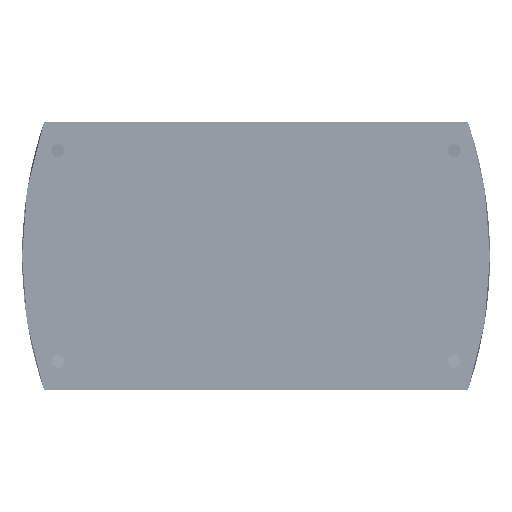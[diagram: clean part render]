
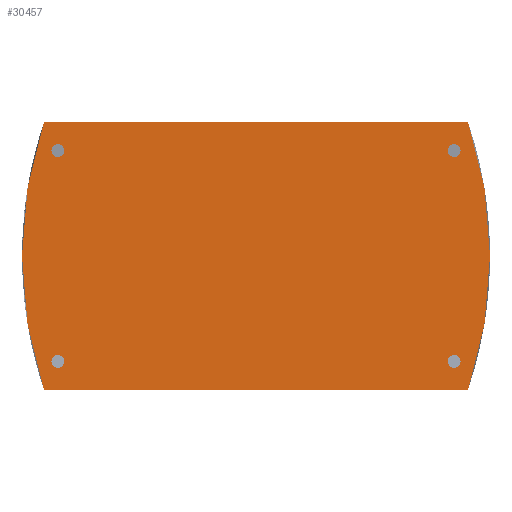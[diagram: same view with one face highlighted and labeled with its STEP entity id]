
A CAD part, front view. The second image highlights one B-rep face of the part: STEP entity #30457.
In plain terms, the highlighted planar face has unit normal (0, -1, 0).
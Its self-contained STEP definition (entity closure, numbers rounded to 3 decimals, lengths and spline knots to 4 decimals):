
#1648=FACE_BOUND('',#5008,.T.);
#1649=FACE_BOUND('',#5009,.T.);
#1650=FACE_BOUND('',#5010,.T.);
#1651=FACE_BOUND('',#5011,.T.);
#2090=PLANE('',#32641);
#3228=FACE_OUTER_BOUND('',#5007,.T.);
#5007=EDGE_LOOP('',(#24183,#24184,#24185,#24186));
#5008=EDGE_LOOP('',(#24187));
#5009=EDGE_LOOP('',(#24188));
#5010=EDGE_LOOP('',(#24189));
#5011=EDGE_LOOP('',(#24190));
#7437=LINE('',#49698,#9945);
#7504=LINE('',#49831,#10012);
#9945=VECTOR('',#37753,0.3937);
#10012=VECTOR('',#37828,0.3937);
#11390=CIRCLE('',#32639,5.7632);
#11391=CIRCLE('',#32642,5.7632);
#11392=CIRCLE('',#32643,0.0885);
#11393=CIRCLE('',#32644,0.0885);
#11394=CIRCLE('',#32645,0.0885);
#11395=CIRCLE('',#32646,0.0885);
#13725=VERTEX_POINT('',#49695);
#13726=VERTEX_POINT('',#49697);
#13758=VERTEX_POINT('',#49766);
#13759=VERTEX_POINT('',#49770);
#13789=VERTEX_POINT('',#49834);
#13790=VERTEX_POINT('',#49836);
#13791=VERTEX_POINT('',#49838);
#13792=VERTEX_POINT('',#49840);
#17436=EDGE_CURVE('',#13725,#13726,#7437,.T.);
#17471=EDGE_CURVE('',#13758,#13726,#11390,.T.);
#17504=EDGE_CURVE('',#13758,#13759,#7504,.T.);
#17505=EDGE_CURVE('',#13725,#13759,#11391,.T.);
#17506=EDGE_CURVE('',#13789,#13789,#11392,.T.);
#17507=EDGE_CURVE('',#13790,#13790,#11393,.T.);
#17508=EDGE_CURVE('',#13791,#13791,#11394,.T.);
#17509=EDGE_CURVE('',#13792,#13792,#11395,.T.);
#24183=ORIENTED_EDGE('',*,*,#17505,.T.);
#24184=ORIENTED_EDGE('',*,*,#17504,.F.);
#24185=ORIENTED_EDGE('',*,*,#17471,.T.);
#24186=ORIENTED_EDGE('',*,*,#17436,.F.);
#24187=ORIENTED_EDGE('',*,*,#17506,.T.);
#24188=ORIENTED_EDGE('',*,*,#17507,.T.);
#24189=ORIENTED_EDGE('',*,*,#17508,.T.);
#24190=ORIENTED_EDGE('',*,*,#17509,.T.);
#30457=ADVANCED_FACE('',(#3228,#1648,#1649,#1650,#1651),#2090,.T.);
#32639=AXIS2_PLACEMENT_3D('',#49767,#37792,#37793);
#32641=AXIS2_PLACEMENT_3D('',#49832,#37829,#37830);
#32642=AXIS2_PLACEMENT_3D('',#49833,#37831,#37832);
#32643=AXIS2_PLACEMENT_3D('',#49835,#37833,#37834);
#32644=AXIS2_PLACEMENT_3D('',#49837,#37835,#37836);
#32645=AXIS2_PLACEMENT_3D('',#49839,#37837,#37838);
#32646=AXIS2_PLACEMENT_3D('',#49841,#37839,#37840);
#37753=DIRECTION('',(-1.,0.,0.));
#37792=DIRECTION('center_axis',(0.,-1.,0.));
#37793=DIRECTION('ref_axis',(0.947,0.,0.321));
#37828=DIRECTION('',(1.,0.,0.));
#37829=DIRECTION('center_axis',(0.,-1.,0.));
#37830=DIRECTION('ref_axis',(0.,0.,-1.));
#37831=DIRECTION('center_axis',(0.,-1.,0.));
#37832=DIRECTION('ref_axis',(-0.947,0.,0.321));
#37833=DIRECTION('center_axis',(0.,1.,0.));
#37834=DIRECTION('ref_axis',(1.,0.,0.));
#37835=DIRECTION('center_axis',(0.,1.,0.));
#37836=DIRECTION('ref_axis',(1.,0.,0.));
#37837=DIRECTION('center_axis',(0.,1.,0.));
#37838=DIRECTION('ref_axis',(1.,0.,0.));
#37839=DIRECTION('center_axis',(0.,1.,0.));
#37840=DIRECTION('ref_axis',(1.,0.,0.));
#49695=CARTESIAN_POINT('',(-0.305,0.,-1.85));
#49697=CARTESIAN_POINT('',(-6.155,0.,-1.85));
#49698=CARTESIAN_POINT('',(0.,0.,-1.85));
#49766=CARTESIAN_POINT('',(-6.155,0.,1.85));
#49767=CARTESIAN_POINT('Origin',(-0.6968,0.,0.));
#49770=CARTESIAN_POINT('',(-0.305,0.,1.85));
#49831=CARTESIAN_POINT('',(-6.46,0.,1.85));
#49832=CARTESIAN_POINT('Origin',(-3.23,0.,0.));
#49833=CARTESIAN_POINT('Origin',(-5.7632,0.,0.));
#49834=CARTESIAN_POINT('',(-6.0535,0.,-1.455));
#49835=CARTESIAN_POINT('Origin',(-5.965,0.,-1.455));
#49836=CARTESIAN_POINT('',(-0.5835,0.,-1.455));
#49837=CARTESIAN_POINT('Origin',(-0.495,0.,-1.455));
#49838=CARTESIAN_POINT('',(-6.0535,0.,1.455));
#49839=CARTESIAN_POINT('Origin',(-5.965,0.,1.455));
#49840=CARTESIAN_POINT('',(-0.5835,0.,1.455));
#49841=CARTESIAN_POINT('Origin',(-0.495,0.,1.455));
